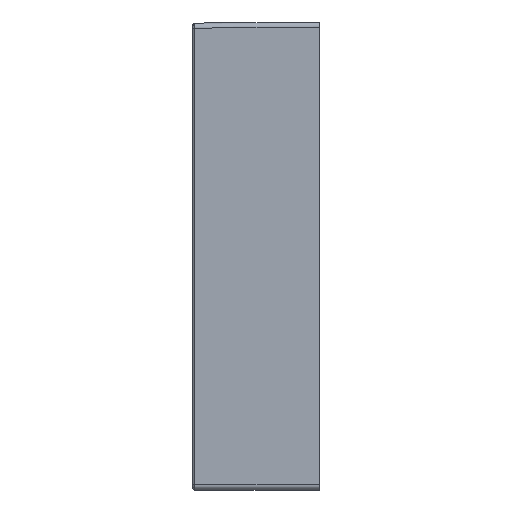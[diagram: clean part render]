
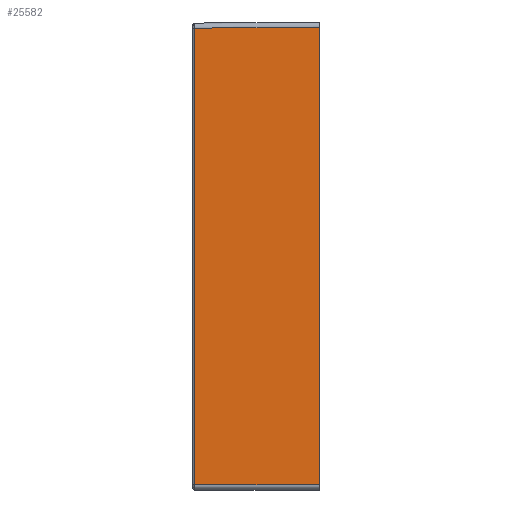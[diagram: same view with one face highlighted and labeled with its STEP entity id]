
A CAD part, left-side view. The second image highlights one B-rep face of the part: STEP entity #25582.
In plain terms, the highlighted planar face has unit normal (-1, 0.009, 0).
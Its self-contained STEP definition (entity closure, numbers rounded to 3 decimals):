
#563 = CARTESIAN_POINT ( 'NONE',  ( -402.48, 2.242, 256.981 ) ) ;
#1236 = VERTEX_POINT ( 'NONE', #17626 ) ;
#1594 = LINE ( 'NONE', #13018, #27768 ) ;
#2982 = VECTOR ( 'NONE', #24654, 1000. ) ;
#3531 = PLANE ( 'NONE',  #18585 ) ;
#3685 = DIRECTION ( 'NONE',  ( -0.009, -1., 0. ) ) ;
#4117 = VECTOR ( 'NONE', #22438, 1000. ) ;
#4150 = EDGE_CURVE ( 'NONE', #17739, #20318, #22587, .T. ) ;
#5416 = EDGE_CURVE ( 'NONE', #20318, #1236, #6861, .T. ) ;
#6791 = EDGE_CURVE ( 'NONE', #7526, #17739, #1594, .T. ) ;
#6861 = LINE ( 'NONE', #563, #26819 ) ;
#7526 = VERTEX_POINT ( 'NONE', #20879 ) ;
#7943 = ORIENTED_EDGE ( 'NONE', *, *, #26707, .T. ) ;
#11176 = LINE ( 'NONE', #13522, #4117 ) ;
#12268 = ORIENTED_EDGE ( 'NONE', *, *, #5416, .T. ) ;
#12476 = DIRECTION ( 'NONE',  ( -1., 0.009, 0. ) ) ;
#12956 = ORIENTED_EDGE ( 'NONE', *, *, #4150, .T. ) ;
#13018 = CARTESIAN_POINT ( 'NONE',  ( -402.5, 0., -195. ) ) ;
#13522 = CARTESIAN_POINT ( 'NONE',  ( -401.426, 123.017, -195. ) ) ;
#13758 = DIRECTION ( 'NONE',  ( 0.009, 1., -0.009 ) ) ;
#14092 = ORIENTED_EDGE ( 'NONE', *, *, #6791, .T. ) ;
#17626 = CARTESIAN_POINT ( 'NONE',  ( -401.426, 123.017, 255.927 ) ) ;
#17739 = VERTEX_POINT ( 'NONE', #27172 ) ;
#18042 = CARTESIAN_POINT ( 'NONE',  ( -402.5, 0., 0. ) ) ;
#18585 = AXIS2_PLACEMENT_3D ( 'NONE', #24190, #12476, #3685 ) ;
#19494 = EDGE_LOOP ( 'NONE', ( #12268, #7943, #14092, #12956 ) ) ;
#20318 = VERTEX_POINT ( 'NONE', #24618 ) ;
#20879 = CARTESIAN_POINT ( 'NONE',  ( -401.426, 123.017, -195. ) ) ;
#22438 = DIRECTION ( 'NONE',  ( 0., 0., -1. ) ) ;
#22587 = LINE ( 'NONE', #18042, #2982 ) ;
#23998 = DIRECTION ( 'NONE',  ( -0.009, -1., 0. ) ) ;
#24190 = CARTESIAN_POINT ( 'NONE',  ( -402.5, 0., 0. ) ) ;
#24618 = CARTESIAN_POINT ( 'NONE',  ( -402.5, 0., 257. ) ) ;
#24654 = DIRECTION ( 'NONE',  ( 0., 0., 1. ) ) ;
#25582 = ADVANCED_FACE ( 'NONE', ( #26076 ), #3531, .T. ) ;
#26076 = FACE_OUTER_BOUND ( 'NONE', #19494, .T. ) ;
#26707 = EDGE_CURVE ( 'NONE', #1236, #7526, #11176, .T. ) ;
#26819 = VECTOR ( 'NONE', #13758, 1000. ) ;
#27172 = CARTESIAN_POINT ( 'NONE',  ( -402.5, 0., -195. ) ) ;
#27768 = VECTOR ( 'NONE', #23998, 1000. ) ;
